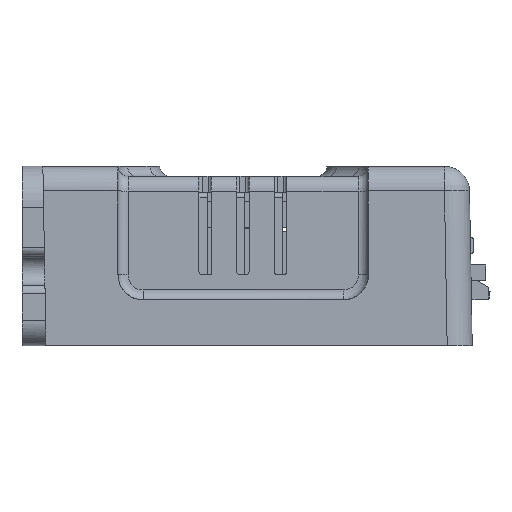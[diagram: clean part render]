
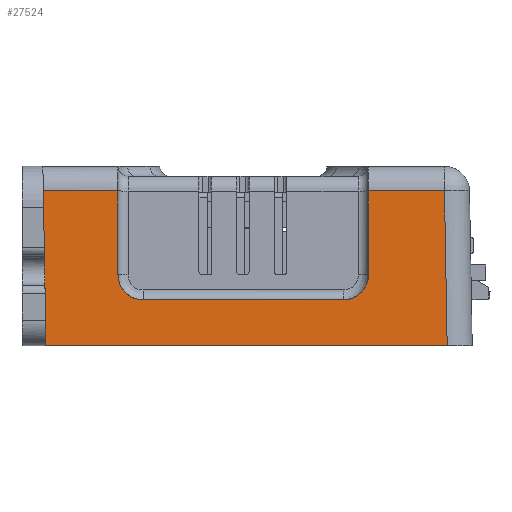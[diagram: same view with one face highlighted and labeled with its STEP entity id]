
A CAD part, left-side view. The second image highlights one B-rep face of the part: STEP entity #27524.
In plain terms, the highlighted planar face has unit normal (-1, 0, 0.018).
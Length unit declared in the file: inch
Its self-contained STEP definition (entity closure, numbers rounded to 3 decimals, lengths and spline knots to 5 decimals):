
#170=LINE('',#38638,#3616);
#221=LINE('',#38796,#3667);
#707=LINE('',#41070,#4153);
#709=LINE('',#41075,#4155);
#711=LINE('',#41082,#4157);
#713=LINE('',#41087,#4159);
#752=LINE('',#41227,#4198);
#839=LINE('',#41646,#4285);
#3616=VECTOR('',#31048,0.73063);
#3667=VECTOR('',#31165,1.89213);
#4153=VECTOR('',#32725,0.35872);
#4155=VECTOR('',#32731,0.39582);
#4157=VECTOR('',#32739,0.94488);
#4159=VECTOR('',#32747,0.39582);
#4198=VECTOR('',#32848,0.35231);
#4285=VECTOR('',#33087,0.73063);
#7200=PLANE('',#29496);
#8380=ELLIPSE('',#29385,0.11813,0.11811);
#8381=ELLIPSE('',#29388,0.11813,0.11811);
#9243=FACE_OUTER_BOUND('',#10872,.T.);
#10872=EDGE_LOOP('',(#21266,#21267,#21268,#21269,#21270,#21271,#21272,#21273,
#21274,#21275));
#12636=VERTEX_POINT('',#38614);
#12647=VERTEX_POINT('',#38636);
#12721=VERTEX_POINT('',#38794);
#12968=VERTEX_POINT('',#39909);
#12972=VERTEX_POINT('',#39955);
#12975=VERTEX_POINT('',#40061);
#12996=VERTEX_POINT('',#40165);
#13254=VERTEX_POINT('',#41069);
#13256=VERTEX_POINT('',#41077);
#13257=VERTEX_POINT('',#41081);
#15225=EDGE_CURVE('',#12636,#12647,#170,.T.);
#15302=EDGE_CURVE('',#12721,#12647,#221,.T.);
#16089=EDGE_CURVE('',#12972,#13254,#707,.T.);
#16092=EDGE_CURVE('',#12968,#12996,#709,.T.);
#16093=EDGE_CURVE('',#13256,#12968,#8380,.T.);
#16095=EDGE_CURVE('',#13257,#13256,#711,.T.);
#16097=EDGE_CURVE('',#12975,#13257,#8381,.T.);
#16098=EDGE_CURVE('',#12972,#12975,#713,.T.);
#16149=EDGE_CURVE('',#12636,#12996,#752,.T.);
#16263=EDGE_CURVE('',#13254,#12721,#839,.T.);
#21266=ORIENTED_EDGE('',*,*,#16098,.T.);
#21267=ORIENTED_EDGE('',*,*,#16097,.T.);
#21268=ORIENTED_EDGE('',*,*,#16095,.T.);
#21269=ORIENTED_EDGE('',*,*,#16093,.T.);
#21270=ORIENTED_EDGE('',*,*,#16092,.T.);
#21271=ORIENTED_EDGE('',*,*,#16149,.F.);
#21272=ORIENTED_EDGE('',*,*,#15225,.T.);
#21273=ORIENTED_EDGE('',*,*,#15302,.F.);
#21274=ORIENTED_EDGE('',*,*,#16263,.F.);
#21275=ORIENTED_EDGE('',*,*,#16089,.F.);
#27524=ADVANCED_FACE('',(#9243),#7200,.F.);
#29385=AXIS2_PLACEMENT_3D('',#41078,#32734,#32735);
#29388=AXIS2_PLACEMENT_3D('',#41085,#32743,#32744);
#29496=AXIS2_PLACEMENT_3D('',#41645,#33085,#33086);
#31048=DIRECTION('',(-0.017,-0.017,-1.));
#31165=DIRECTION('',(0.,1.,0.));
#32725=DIRECTION('',(0.,-1.,0.));
#32731=DIRECTION('',(0.017,0.,1.));
#32734=DIRECTION('center_axis',(1.,0.,-0.017));
#32735=DIRECTION('ref_axis',(0.017,0.,1.));
#32739=DIRECTION('',(0.,1.,0.));
#32743=DIRECTION('center_axis',(1.,0.,-0.017));
#32744=DIRECTION('ref_axis',(0.017,0.,1.));
#32747=DIRECTION('',(-0.017,0.,-1.));
#32848=DIRECTION('',(0.,-1.,0.));
#33085=DIRECTION('center_axis',(1.,0.,-0.017));
#33086=DIRECTION('ref_axis',(0.,-1.,0.));
#33087=DIRECTION('',(-0.017,-0.017,-1.));
#38614=CARTESIAN_POINT('',(-8.10725,-0.00203,0.63198));
#38636=CARTESIAN_POINT('',(-8.12,-0.01477,-0.09843));
#38638=CARTESIAN_POINT('',(-8.11294,-0.00771,0.30615));
#38794=CARTESIAN_POINT('',(-8.12,-1.9069,-0.09843));
#38796=CARTESIAN_POINT('',(-8.12,-0.96329,-0.09843));
#39909=CARTESIAN_POINT('',(-8.11416,-0.35433,0.23622));
#39955=CARTESIAN_POINT('',(-8.10725,-1.53543,0.63198));
#40061=CARTESIAN_POINT('',(-8.11416,-1.53543,0.23622));
#40165=CARTESIAN_POINT('',(-8.10725,-0.35433,0.63198));
#41069=CARTESIAN_POINT('',(-8.10725,-1.89415,0.63198));
#41070=CARTESIAN_POINT('',(-8.10725,-1.01181,0.63198));
#41075=CARTESIAN_POINT('',(-8.11193,-0.35433,0.36417));
#41077=CARTESIAN_POINT('',(-8.11622,-0.47244,0.11811));
#41078=CARTESIAN_POINT('Origin',(-8.11416,-0.47244,0.23622));
#41081=CARTESIAN_POINT('',(-8.11622,-1.41732,0.11811));
#41082=CARTESIAN_POINT('',(-8.11622,-1.01181,0.11811));
#41085=CARTESIAN_POINT('Origin',(-8.11416,-1.41732,0.23622));
#41087=CARTESIAN_POINT('',(-8.11193,-1.53543,0.36417));
#41227=CARTESIAN_POINT('',(-8.10725,-1.01181,0.63198));
#41645=CARTESIAN_POINT('Origin',(-8.11863,-1.01181,-0.01969));
#41646=CARTESIAN_POINT('',(-8.11294,-1.89984,0.30615));
